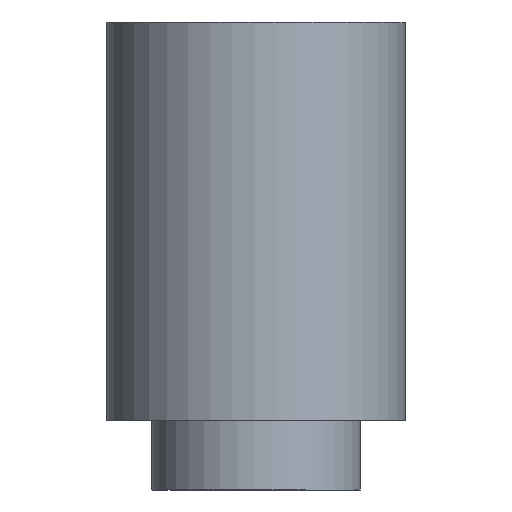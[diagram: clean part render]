
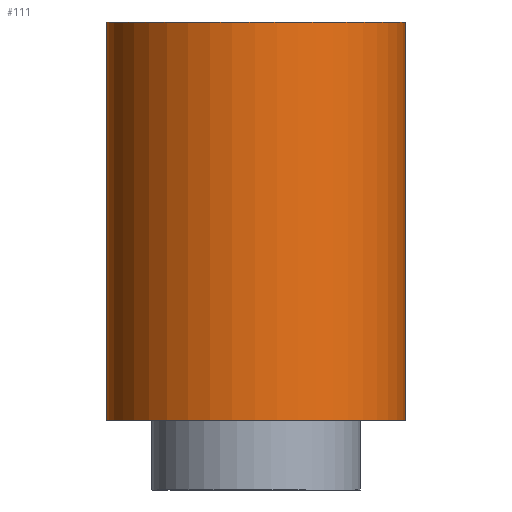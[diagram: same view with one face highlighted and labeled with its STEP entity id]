
A CAD part, front view. The second image highlights one B-rep face of the part: STEP entity #111.
In plain terms, the highlighted free-form (B-spline) face has degree [2, 1] with [7, 2] control points.
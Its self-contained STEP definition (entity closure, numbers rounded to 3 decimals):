
#92 = EDGE_CURVE('',#93,#93,#95,.T.);
#93 = VERTEX_POINT('',#94);
#94 = CARTESIAN_POINT('',(-3.,0.,0.));
#95 = ( BOUNDED_CURVE() B_SPLINE_CURVE(2,(#96,#97,#98,#99,#100,#101,#102
),.UNSPECIFIED.,.T.,.F.) B_SPLINE_CURVE_WITH_KNOTS((1,2,2,2,2,1),(
    -2.094,0.,2.094,4.189,6.283,
8.378),.UNSPECIFIED.) CURVE() GEOMETRIC_REPRESENTATION_ITEM() 
RATIONAL_B_SPLINE_CURVE((1.,0.5,1.,0.5,1.,0.5,1.)) REPRESENTATION_ITEM(
  '') );
#96 = CARTESIAN_POINT('',(-3.,0.,0.));
#97 = CARTESIAN_POINT('',(-3.,5.196,0.));
#98 = CARTESIAN_POINT('',(1.5,2.598,0.));
#99 = CARTESIAN_POINT('',(6.,0.,0.));
#100 = CARTESIAN_POINT('',(1.5,-2.598,0.));
#101 = CARTESIAN_POINT('',(-3.,-5.196,0.));
#102 = CARTESIAN_POINT('',(-3.,0.,0.));
#111 = ADVANCED_FACE('',(#112),#133,.T.);
#112 = FACE_BOUND('',#113,.T.);
#113 = EDGE_LOOP('',(#114,#126,#131,#132));
#114 = ORIENTED_EDGE('',*,*,#115,.T.);
#115 = EDGE_CURVE('',#116,#116,#118,.T.);
#116 = VERTEX_POINT('',#117);
#117 = CARTESIAN_POINT('',(-3.,0.,8.));
#118 = ( BOUNDED_CURVE() B_SPLINE_CURVE(2,(#119,#120,#121,#122,#123,#124
,#125),.UNSPECIFIED.,.T.,.F.) B_SPLINE_CURVE_WITH_KNOTS((1,2,2,2,2,1),(
    -2.094,0.,2.094,4.189,6.283,
8.378),.UNSPECIFIED.) CURVE() GEOMETRIC_REPRESENTATION_ITEM() 
RATIONAL_B_SPLINE_CURVE((1.,0.5,1.,0.5,1.,0.5,1.)) REPRESENTATION_ITEM(
  '') );
#119 = CARTESIAN_POINT('',(-3.,0.,8.));
#120 = CARTESIAN_POINT('',(-3.,5.196,8.));
#121 = CARTESIAN_POINT('',(1.5,2.598,8.));
#122 = CARTESIAN_POINT('',(6.,0.,8.));
#123 = CARTESIAN_POINT('',(1.5,-2.598,8.));
#124 = CARTESIAN_POINT('',(-3.,-5.196,8.));
#125 = CARTESIAN_POINT('',(-3.,0.,8.));
#126 = ORIENTED_EDGE('',*,*,#127,.F.);
#127 = EDGE_CURVE('',#93,#116,#128,.T.);
#128 = B_SPLINE_CURVE_WITH_KNOTS('',1,(#129,#130),.UNSPECIFIED.,.F.,.F.,
  (2,2),(1.4,9.4),.PIECEWISE_BEZIER_KNOTS.);
#129 = CARTESIAN_POINT('',(-3.,0.,0.));
#130 = CARTESIAN_POINT('',(-3.,0.,8.));
#131 = ORIENTED_EDGE('',*,*,#92,.F.);
#132 = ORIENTED_EDGE('',*,*,#127,.T.);
#133 = ( BOUNDED_SURFACE() B_SPLINE_SURFACE(2,1,(
    (#134,#135)
    ,(#136,#137)
    ,(#138,#139)
    ,(#140,#141)
    ,(#142,#143)
    ,(#144,#145)
,(#146,#147
    )),.UNSPECIFIED.,.T.,.F.,.F.) B_SPLINE_SURFACE_WITH_KNOTS((1,2,2,2,2
    ,1),(2,2),(-2.094,0.,2.094,4.189,
    6.283,8.378),(1.4,9.4),.UNSPECIFIED.) 
GEOMETRIC_REPRESENTATION_ITEM() RATIONAL_B_SPLINE_SURFACE((
    (1.,1.)
    ,(0.5,0.5)
    ,(1.,1.)
    ,(0.5,0.5)
    ,(1.,1.)
    ,(0.5,0.5)
,(1.,1.))) REPRESENTATION_ITEM('') SURFACE() );
#134 = CARTESIAN_POINT('',(-3.,0.,0.));
#135 = CARTESIAN_POINT('',(-3.,0.,8.));
#136 = CARTESIAN_POINT('',(-3.,-5.196,0.));
#137 = CARTESIAN_POINT('',(-3.,-5.196,8.));
#138 = CARTESIAN_POINT('',(1.5,-2.598,0.));
#139 = CARTESIAN_POINT('',(1.5,-2.598,8.));
#140 = CARTESIAN_POINT('',(6.,0.,0.));
#141 = CARTESIAN_POINT('',(6.,0.,8.));
#142 = CARTESIAN_POINT('',(1.5,2.598,0.));
#143 = CARTESIAN_POINT('',(1.5,2.598,8.));
#144 = CARTESIAN_POINT('',(-3.,5.196,0.));
#145 = CARTESIAN_POINT('',(-3.,5.196,8.));
#146 = CARTESIAN_POINT('',(-3.,0.,0.));
#147 = CARTESIAN_POINT('',(-3.,0.,8.));
